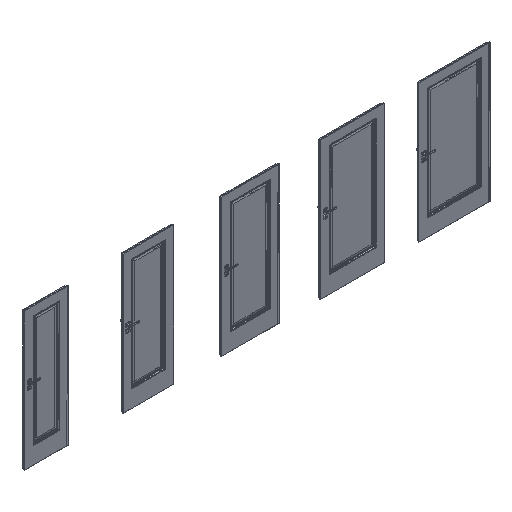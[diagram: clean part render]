
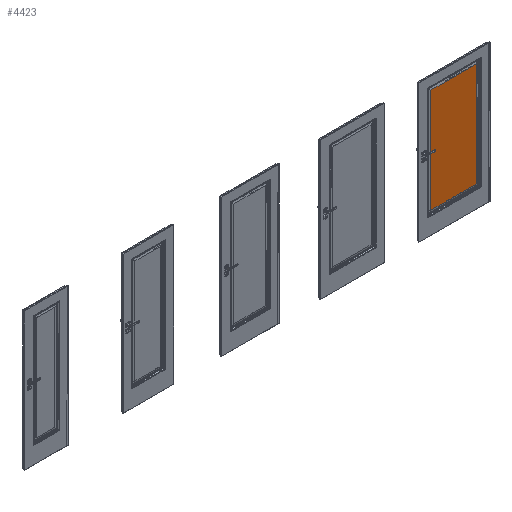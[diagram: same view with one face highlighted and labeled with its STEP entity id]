
A CAD part, isometric view. The second image highlights one B-rep face of the part: STEP entity #4423.
In plain terms, the highlighted planar face has unit normal (0, -1, 0).
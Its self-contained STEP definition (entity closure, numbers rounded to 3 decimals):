
#2886=FACE_OUTER_BOUND('',#7718,.T.);
#4423=ADVANCED_FACE('',(#2886),#5628,.F.);
#5628=PLANE('',#27512);
#7718=EDGE_LOOP('',(#12792,#12793,#12794,#12795));
#12792=ORIENTED_EDGE('',*,*,#20662,.T.);
#12793=ORIENTED_EDGE('',*,*,#20669,.F.);
#12794=ORIENTED_EDGE('',*,*,#20666,.T.);
#12795=ORIENTED_EDGE('',*,*,#20668,.T.);
#17518=VERTEX_POINT('',#63462);
#17519=VERTEX_POINT('',#63463);
#17520=VERTEX_POINT('',#63468);
#17521=VERTEX_POINT('',#63470);
#20662=EDGE_CURVE('',#17518,#17519,#23596,.T.);
#20666=EDGE_CURVE('',#17521,#17520,#23600,.T.);
#20668=EDGE_CURVE('',#17520,#17518,#23602,.T.);
#20669=EDGE_CURVE('',#17521,#17519,#23603,.T.);
#23596=LINE('',#63461,#25746);
#23600=LINE('',#63469,#25750);
#23602=LINE('',#63473,#25752);
#23603=LINE('',#63475,#25753);
#25746=VECTOR('',#31536,1.);
#25750=VECTOR('',#31542,1.);
#25752=VECTOR('',#31546,1.);
#25753=VECTOR('',#31549,1.);
#27512=AXIS2_PLACEMENT_3D('',#63476,#31550,#31551);
#31536=DIRECTION('',(1.,0.,0.));
#31542=DIRECTION('',(-1.,0.,0.));
#31546=DIRECTION('',(0.,0.,-1.));
#31549=DIRECTION('',(0.,0.,-1.));
#31550=DIRECTION('',(0.,1.,0.));
#31551=DIRECTION('',(0.,0.,1.));
#63461=CARTESIAN_POINT('',(5665.192,-27.85,313.683));
#63462=CARTESIAN_POINT('',(5665.183,-27.85,313.683));
#63463=CARTESIAN_POINT('',(6334.817,-27.85,313.683));
#63468=CARTESIAN_POINT('',(5665.183,-27.85,1842.317));
#63469=CARTESIAN_POINT('',(5665.192,-27.85,1842.317));
#63470=CARTESIAN_POINT('',(6334.817,-27.85,1842.317));
#63473=CARTESIAN_POINT('',(5665.183,-27.85,1893.));
#63475=CARTESIAN_POINT('',(6334.817,-27.85,1893.));
#63476=CARTESIAN_POINT('',(5665.192,-27.85,1893.));
